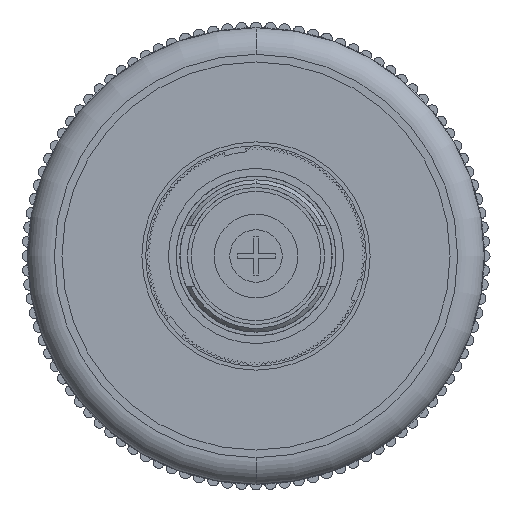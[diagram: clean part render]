
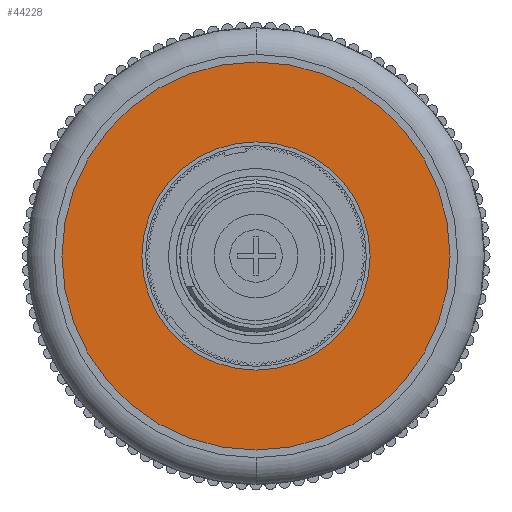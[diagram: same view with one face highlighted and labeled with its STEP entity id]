
A CAD part, front view. The second image highlights one B-rep face of the part: STEP entity #44228.
In plain terms, the highlighted planar face has unit normal (0, -1, 0).
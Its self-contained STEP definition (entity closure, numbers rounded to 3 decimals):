
#234 = VERTEX_POINT ( 'NONE', #8902 ) ;
#509 = DIRECTION ( 'NONE',  ( 0., -1., 0. ) ) ;
#778 = DIRECTION ( 'NONE',  ( 0., -1., 0. ) ) ;
#3902 = DIRECTION ( 'NONE',  ( 0., 0., -1. ) ) ;
#4255 = EDGE_LOOP ( 'NONE', ( #21006, #28772 ) ) ;
#4371 = AXIS2_PLACEMENT_3D ( 'NONE', #41210, #44878, #25017 ) ;
#5007 = DIRECTION ( 'NONE',  ( 0., 0., -1. ) ) ;
#7575 = PLANE ( 'NONE',  #15513 ) ;
#8902 = CARTESIAN_POINT ( 'NONE',  ( 0., 17.5, -15. ) ) ;
#10747 = CARTESIAN_POINT ( 'NONE',  ( 0., 17.5, 15. ) ) ;
#11682 = CIRCLE ( 'NONE', #4371, 15. ) ;
#12583 = CARTESIAN_POINT ( 'NONE',  ( 0., 17.5, 0. ) ) ;
#12844 = CIRCLE ( 'NONE', #20183, 15. ) ;
#14140 = FACE_OUTER_BOUND ( 'NONE', #14625, .T. ) ;
#14625 = EDGE_LOOP ( 'NONE', ( #22945, #50732 ) ) ;
#15506 = AXIS2_PLACEMENT_3D ( 'NONE', #23850, #778, #3902 ) ;
#15513 = AXIS2_PLACEMENT_3D ( 'NONE', #47262, #509, #39775 ) ;
#16612 = AXIS2_PLACEMENT_3D ( 'NONE', #36752, #32421, #32596 ) ;
#17449 = EDGE_CURVE ( 'NONE', #38775, #50666, #22954, .T. ) ;
#20183 = AXIS2_PLACEMENT_3D ( 'NONE', #12583, #40472, #5007 ) ;
#21006 = ORIENTED_EDGE ( 'NONE', *, *, #44905, .F. ) ;
#22177 = CIRCLE ( 'NONE', #16612, 25.5 ) ;
#22945 = ORIENTED_EDGE ( 'NONE', *, *, #26005, .T. ) ;
#22954 = CIRCLE ( 'NONE', #15506, 25.5 ) ;
#23850 = CARTESIAN_POINT ( 'NONE',  ( 0., 17.5, 0. ) ) ;
#25017 = DIRECTION ( 'NONE',  ( 0., 0., -1. ) ) ;
#25060 = CARTESIAN_POINT ( 'NONE',  ( 0., 17.5, -25.5 ) ) ;
#26005 = EDGE_CURVE ( 'NONE', #50666, #38775, #22177, .T. ) ;
#28772 = ORIENTED_EDGE ( 'NONE', *, *, #38657, .F. ) ;
#32421 = DIRECTION ( 'NONE',  ( 0., -1., 0. ) ) ;
#32596 = DIRECTION ( 'NONE',  ( 0., 0., -1. ) ) ;
#36752 = CARTESIAN_POINT ( 'NONE',  ( 0., 17.5, 0. ) ) ;
#36959 = FACE_BOUND ( 'NONE', #4255, .T. ) ;
#38128 = CARTESIAN_POINT ( 'NONE',  ( 0., 17.5, 25.5 ) ) ;
#38657 = EDGE_CURVE ( 'NONE', #42049, #234, #11682, .T. ) ;
#38775 = VERTEX_POINT ( 'NONE', #38128 ) ;
#39775 = DIRECTION ( 'NONE',  ( 0., 0., -1. ) ) ;
#40472 = DIRECTION ( 'NONE',  ( 0., -1., 0. ) ) ;
#41210 = CARTESIAN_POINT ( 'NONE',  ( 0., 17.5, 0. ) ) ;
#42049 = VERTEX_POINT ( 'NONE', #10747 ) ;
#44228 = ADVANCED_FACE ( 'NONE', ( #14140, #36959 ), #7575, .T. ) ;
#44878 = DIRECTION ( 'NONE',  ( 0., -1., 0. ) ) ;
#44905 = EDGE_CURVE ( 'NONE', #234, #42049, #12844, .T. ) ;
#47262 = CARTESIAN_POINT ( 'NONE',  ( 15., 17.5, 0. ) ) ;
#50666 = VERTEX_POINT ( 'NONE', #25060 ) ;
#50732 = ORIENTED_EDGE ( 'NONE', *, *, #17449, .T. ) ;
